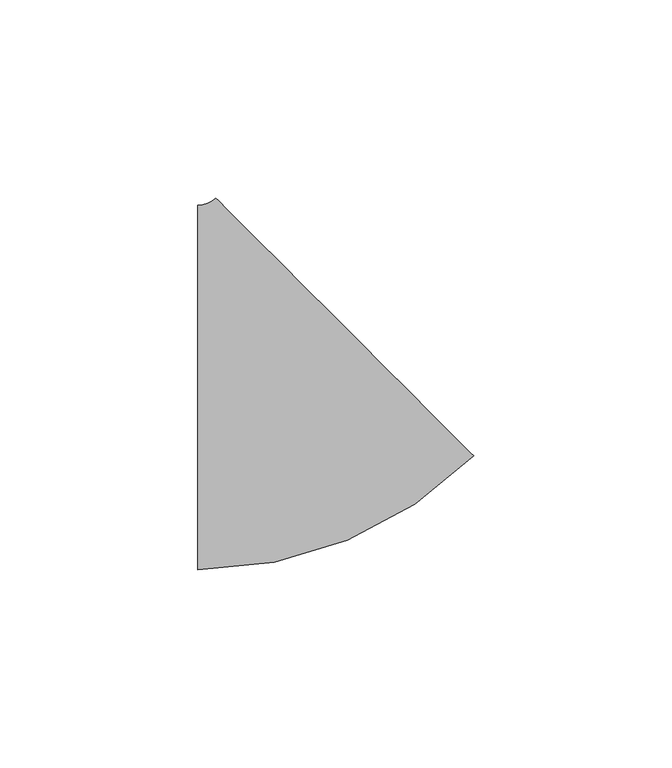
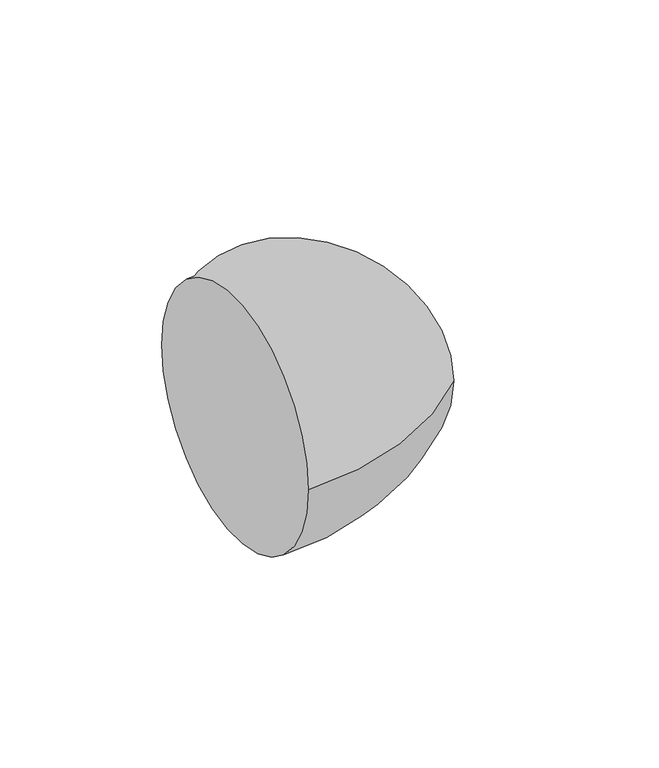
"""IFC4 building model written with IfcOpenShell, lengths in millimetres: pipe fitting geometry, M_Codo - Genérico : Estándar."""

from ifc_helpers import new_model, si_unit, point, frame, origin, place, context, project, spatial, circle_curve, ellipse_curve, trimmed, source, transform, mapped, element, save
from ifc_brep_helpers import plane_surface, revolved_surface, advanced_brep


def pipe_fitting_7b861d32(model_context):
    return source(origin(), model_context, "Body", "AdvancedBrep", [
        advanced_brep(
        [(-21.698342, -46.0375, 0.0), (-21.698342, 46.0375, 0.0), (47.8957603, -17.2123675, 0.0), (-17.2083999, 47.897186, 0.0)],
        [
            (0, 1, circle_curve(frame((-21.698342, 0.0, 0.0), z_axis=(-1.0, 0.0, 0.0), x_axis=(0.0, 1.0, 0.0)), 46.0375)),
            (1, 0, circle_curve(frame((-21.698342, 0.0, 0.0), z_axis=(-1.0, 0.0, 0.0), x_axis=(0.0, 1.0, 0.0)), 46.0375)),
            (2, 3, circle_curve(frame((15.3436802, 15.3424093, 0.0), z_axis=(0.7071360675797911, 0.7070774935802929, 0.0), x_axis=(-0.7070774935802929, 0.7071360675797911, 0.0)), 46.0375)),
            (3, 2, circle_curve(frame((15.3436802, 15.3424093, 0.0), z_axis=(0.7071360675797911, 0.7070774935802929, 0.0), x_axis=(-0.7070774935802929, 0.7071360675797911, 0.0)), 46.0375)),
            (3, 1, circle_curve(frame((-21.698342, 52.3875, 0.0), z_axis=(0.0, 0.0, -1.0), x_axis=(0.0, -1.0, 0.0)), 6.35)),
            (0, 2, circle_curve(frame((-21.698342, 52.3875, 0.0), z_axis=(0.0, 0.0, 1.0), x_axis=(0.0, -1.0, 0.0)), 98.425)),
        ],
        [
            plane_surface(frame((-21.698342, 0.0, 0.0), z_axis=(-1.0, 0.0, 0.0), x_axis=(0.0, 0.0, 1.0))),
            plane_surface(frame((15.3436802, 15.3424093, 0.0), z_axis=(0.7071360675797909, 0.707077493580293, 0.0), x_axis=(0.0, 0.0, 1.0))),
            revolved_surface(trimmed(ellipse_curve(frame((-21.698342, 0.0, 0.0), z_axis=(-1.0, 0.0, 0.0), x_axis=(0.0, 1.0, 0.0)), 46.0375, 46.0375), [point((-21.698342, -46.0375, 0.0))], [point((-21.698342, 46.0375, 0.0))], True, "CARTESIAN"), (-21.698342, 52.3875, 0.0), (0.0, 0.0, 1.0)),
            revolved_surface(trimmed(ellipse_curve(frame((-21.698342, 0.0, 0.0), z_axis=(-1.0, 0.0, 0.0), x_axis=(0.0, 1.0, 0.0)), 46.0375, 46.0375), [point((-21.698342, 46.0375, 0.0))], [point((-21.698342, -46.0375, 0.0))], True, "CARTESIAN"), (-21.698342, 52.3875, 0.0), (0.0, 0.0, 1.0)),
        ],
        [
            (0, [[1, 2]]),
            (1, [[3, 4]]),
            (2, [[5, -1, 6, -4]]),
            (3, [[-6, -2, -5, -3]]),
        ],
    ),
    ])


if __name__ == "__main__":
    model = new_model("IFC4")
    model_context = context("Model", 3, world=origin())
    ifc_project = project(units=[si_unit("LENGTHUNIT", "METRE", prefix="MILLI")], contexts=[model_context])
    site = spatial("IfcSite", under=ifc_project)
    building = spatial("IfcBuilding", under=site)
    placement = place(None, origin())
    pipe_fitting_shape = pipe_fitting_7b861d32(model_context)
    element("IfcPipeFitting", 1, ObjectType="M_Codo - Genérico : Estándar", at=placement, inside=building, context=model_context, shape_type="MappedRepresentation", body=[
        mapped(pipe_fitting_shape, transform((0.0, 0.0, 0.0), x_axis=(1.0, 0.0, 0.0), y_axis=(0.0, 1.0, 0.0), z_axis=(0.0, 0.0, 1.0))),
    ])
    save(model, "model.ifc")
